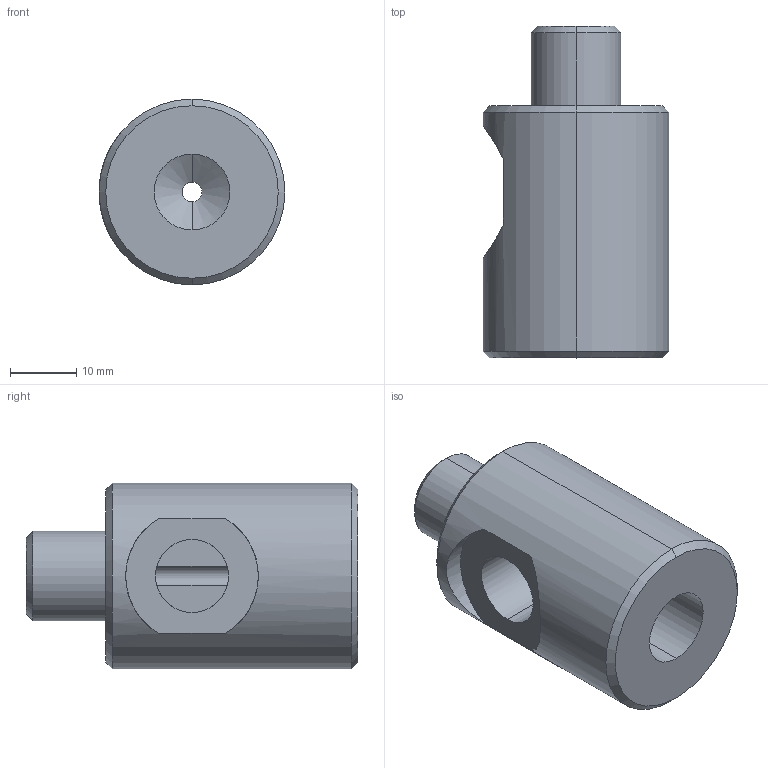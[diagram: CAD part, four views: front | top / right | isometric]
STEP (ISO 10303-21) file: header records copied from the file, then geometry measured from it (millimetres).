
FILE_DESCRIPTION (( 'STEP AP214' ), '1' );
FILE_NAME ('0000002477.STEP', '2015-06-15T09:28:54', ( 'HP' ), ( 'Hewlett-Packard Company' ), 'SwSTEP 2.0', 'SolidWorks 2014', '' );
FILE_SCHEMA (( 'AUTOMOTIVE_DESIGN' ));
Length unit declared in the file: millimetre
Products named in the file (1): 0000002477
Bounding box: 28 x 50 x 28 mm (x, y, z)
Volume: 21370.5 mm3; surface area: 6173.7 mm2
Topology: 1 solids, 1 shells, 27 faces, 58 edges, 34 vertices
Faces by surface type: cylinder 13, cone 8, plane 6
Entity records: 946 total; most frequent: CARTESIAN_POINT 236, DIRECTION 140, ORIENTED_EDGE 116, EDGE_CURVE 58, AXIS2_PLACEMENT_3D 58, VERTEX_POINT 34, EDGE_LOOP 32, CIRCLE 30
